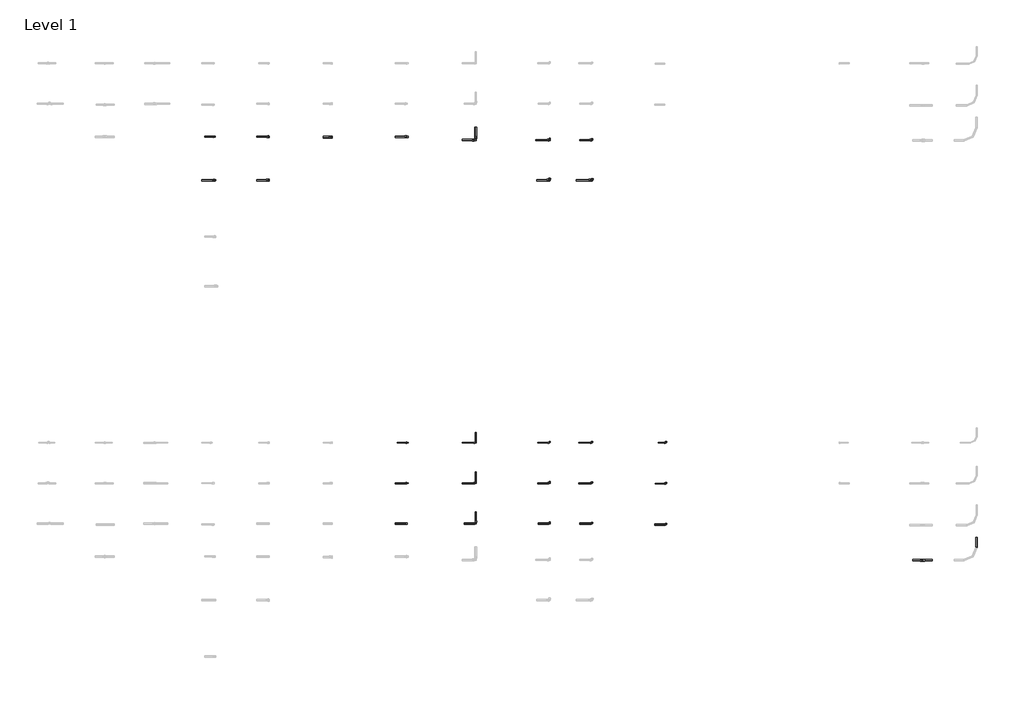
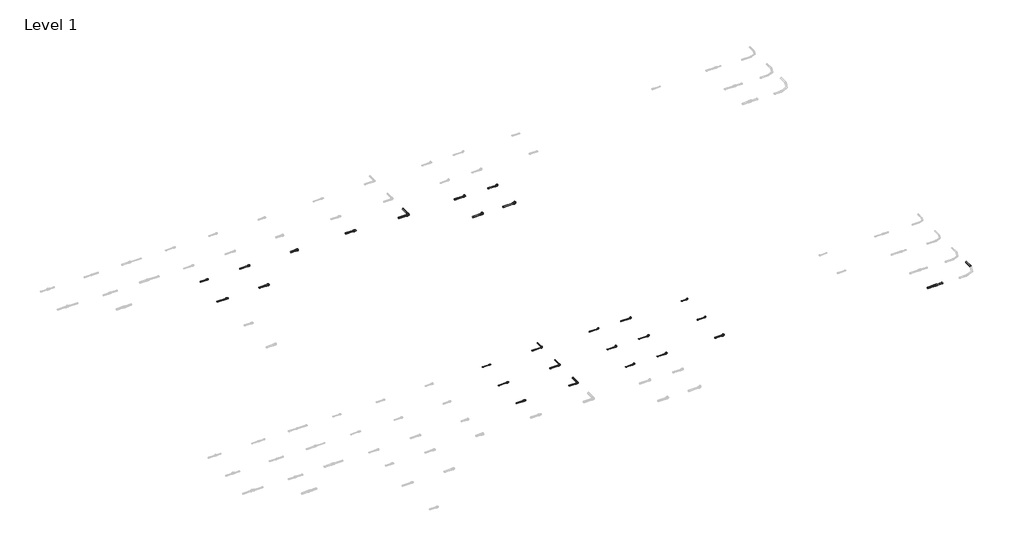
# One storey, part 9 of 16: 33 pipe segments, 28 pipe fittings.
"""IFC4 building model written with IfcOpenShell, lengths in millimetres."""

from ifc_helpers import new_model, si_unit, point, frame, frame_2d, origin, place, context, project, spatial, circle_curve, trimmed, segment, composite_curve, outline, extrude, transform, mapped, element, save
from components import pipe_fitting_554da5ac, pipe_fitting_11a16acd, pipe_fitting_9dc6dfba, pipe_fitting_2e9639ed, pipe_fitting_a8fbe6ac, pipe_fitting_d71fb650, pipe_fitting_546e3b0f, pipe_fitting_1a29b1f6, pipe_fitting_21c97d0d, pipe_fitting_4892b1d5, pipe_fitting_e188583c, pipe_fitting_fb4eec36, pipe_fitting_127ecf93, pipe_fitting_cd4c1f98, pipe_fitting_85239123, pipe_fitting_6c2c1df7, pipe_fitting_8eda894a, pipe_fitting_ad4eddfe, pipe_fitting_73c1a440, pipe_fitting_a2f8d1bd, pipe_fitting_43ece0d2, pipe_fitting_f574101e, pipe_fitting_ed7d2527, pipe_fitting_034b971a, pipe_fitting_1c80bece

model = new_model("IFC4")

# Units and contexts
model_context = context("Model", 3, world=origin())
ifc_project = project(units=[si_unit("LENGTHUNIT", "METRE", prefix="MILLI")], contexts=[model_context])

# Site, building, storey
site = spatial("IfcSite", under=ifc_project)
building = spatial("IfcBuilding", under=site)
storey = spatial("IfcBuildingStorey", under=building, Name="Level 1", Elevation=0.0)

# Pipe fittings
placement = place(None, origin())
pipe_fitting_shape = pipe_fitting_554da5ac(model_context)
element("IfcPipeFitting", 1, ObjectType="FASTLOC_Elbow with male thread EX+ : FSL A internal AT", at=placement, inside=storey, context=model_context, shape_type="MappedRepresentation", body=[
    mapped(pipe_fitting_shape, transform((44135.3824015, -7087.6479967, 0.0), x_axis=(1.0, 0.0, 0.0), y_axis=(0.0, 1.0, 0.0), z_axis=(0.0, 0.0, 1.0))),
])
pipe_fitting_2_shape = pipe_fitting_11a16acd(model_context)
element("IfcPipeFitting", 2, ObjectType="FASTLOC_Elbow with female thread EX+ : FSL A internal AT", at=placement, inside=storey, context=model_context, shape_type="MappedRepresentation", body=[
    mapped(pipe_fitting_2_shape, transform((44973.8113057, -6287.6479967, 0.0), x_axis=(1.0, 0.0, 0.0), y_axis=(0.0, 1.0, 0.0), z_axis=(0.0, 0.0, 1.0))),
])
element("IfcPipeFitting", 3, ObjectType="FASTLOC_Elbow with female thread EX+ : FSL A internal AT", at=placement, inside=storey, context=model_context, shape_type="MappedRepresentation", body=[
    mapped(pipe_fitting_2_shape, transform((46435.3824015, -6287.6479967, 0.0), x_axis=(1.0, 0.0, 0.0), y_axis=(0.0, 1.0, 0.0), z_axis=(0.0, 0.0, 1.0))),
])
element("IfcPipeFitting", 4, ObjectType="FASTLOC_Elbow with female thread EX+ : FSL A internal AT", at=placement, inside=storey, context=model_context, shape_type="MappedRepresentation", body=[
    mapped(pipe_fitting_2_shape, transform((46435.3824015, -7095.6479967, 0.0), x_axis=(1.0, 0.0, 0.0), y_axis=(0.0, 1.0, 0.0), z_axis=(0.0, 0.0, 1.0))),
])
pipe_fitting_3_shape = pipe_fitting_9dc6dfba(model_context)
element("IfcPipeFitting", 5, ObjectType="FASTLOC_Corner EX+ : FSL C EX+ AT", at=placement, inside=storey, context=model_context, shape_type="MappedRepresentation", body=[
    mapped(pipe_fitting_3_shape, transform((42675.3824015, -6287.6479967, 0.0), x_axis=(1.0, 0.0, 0.0), y_axis=(0.0, 1.0, 0.0), z_axis=(0.0, 0.0, 1.0))),
])
pipe_fitting_4_shape = pipe_fitting_2e9639ed(model_context)
element("IfcPipeFitting", 6, ObjectType="FASTLOC Copper press adapter RX+ : FSL RX+ AT", at=placement, inside=storey, context=model_context, shape_type="MappedRepresentation", body=[
    mapped(pipe_fitting_4_shape, transform((41315.3824015, -6287.6479967, 0.0), x_axis=(1.0, 0.0, 0.0), y_axis=(0.0, 1.0, 0.0), z_axis=(0.0, 0.0, 1.0))),
])
pipe_fitting_5_shape = pipe_fitting_a8fbe6ac(model_context)
element("IfcPipeFitting", 7, ObjectType="RAUTITAN_Sleeve PX : RTI S PX", at=placement, inside=storey, context=model_context, shape_type="MappedRepresentation", body=[
    mapped(pipe_fitting_5_shape, transform((51510.6241081, -8611.8142398, 13.7), x_axis=(1.0, 0.0, 0.0), y_axis=(0.0, 1.0, 0.0), z_axis=(0.0, 0.0, 1.0))),
])
pipe_fitting_6_shape = pipe_fitting_d71fb650(model_context)
element("IfcPipeFitting", 8, ObjectType="FASTLOC_Elbow with male thread EX+ : FSL A internal DE", at=placement, inside=storey, context=model_context, shape_type="MappedRepresentation", body=[
    mapped(pipe_fitting_6_shape, transform((44135.3824015, -304.9640428, 0.0), x_axis=(1.0, 0.0, 0.0), y_axis=(0.0, 1.0, 0.0), z_axis=(0.0, 0.0, 1.0))),
])
pipe_fitting_7_shape = pipe_fitting_546e3b0f(model_context)
element("IfcPipeFitting", 9, ObjectType="FASTLOC_Elbow with male thread EX+ : FSL A internal DE", at=placement, inside=storey, context=model_context, shape_type="MappedRepresentation", body=[
    mapped(pipe_fitting_7_shape, transform((44135.3824015, -1099.407392, 0.0), x_axis=(1.0, 0.0, 0.0), y_axis=(0.0, 1.0, 0.0), z_axis=(0.0, 0.0, 1.0))),
])
pipe_fitting_8_shape = pipe_fitting_1a29b1f6(model_context)
element("IfcPipeFitting", 10, ObjectType="FASTLOC_Elbow with male thread EX+ : FSL A internal AT", at=placement, inside=storey, context=model_context, shape_type="MappedRepresentation", body=[
    mapped(pipe_fitting_8_shape, transform((44135.3824015, -6287.6479967, 0.0), x_axis=(1.0, 0.0, 0.0), y_axis=(0.0, 1.0, 0.0), z_axis=(0.0, 0.0, 1.0))),
])
pipe_fitting_9_shape = pipe_fitting_21c97d0d(model_context)
element("IfcPipeFitting", 11, ObjectType="FASTLOC_Elbow with male thread EX+ : FSL A internal AT", at=placement, inside=storey, context=model_context, shape_type="MappedRepresentation", body=[
    mapped(pipe_fitting_9_shape, transform((44135.3824015, -7887.6479967, 0.0), x_axis=(1.0, 0.0, 0.0), y_axis=(0.0, 1.0, 0.0), z_axis=(0.0, 0.0, 1.0))),
])
pipe_fitting_10_shape = pipe_fitting_4892b1d5(model_context)
element("IfcPipeFitting", 12, ObjectType="FASTLOC_Adapter coupling EX+ : FSL TC EX+ AT", at=placement, inside=storey, context=model_context, shape_type="MappedRepresentation", body=[
    mapped(pipe_fitting_10_shape, transform((51491.3241081, -8611.8142398, 13.7), x_axis=(1.0, 0.0, 0.0), y_axis=(0.0, 1.0, 0.0), z_axis=(0.0, 0.0, 1.0))),
])
pipe_fitting_11_shape = pipe_fitting_e188583c(model_context)
element("IfcPipeFitting", 13, ObjectType="FASTLOC Copper press adapter RX+ : FSL RX+ DE", at=placement, inside=storey, context=model_context, shape_type="MappedRepresentation", body=[
    mapped(pipe_fitting_11_shape, transform((41315.3824015, -239.0537829, 0.0), x_axis=(1.0, 0.0, 0.0), y_axis=(0.0, 1.0, 0.0), z_axis=(0.0, 0.0, 1.0))),
])
pipe_fitting_12_shape = pipe_fitting_fb4eec36(model_context)
element("IfcPipeFitting", 14, ObjectType="FASTLOC Copper press adapter RX+ : FSL RX+ AT", at=placement, inside=storey, context=model_context, shape_type="MappedRepresentation", body=[
    mapped(pipe_fitting_12_shape, transform((41315.3824015, -7087.6479967, 0.0), x_axis=(1.0, 0.0, 0.0), y_axis=(0.0, 1.0, 0.0), z_axis=(0.0, 0.0, 1.0))),
])
pipe_fitting_13_shape = pipe_fitting_127ecf93(model_context)
element("IfcPipeFitting", 15, ObjectType="FASTLOC Copper press adapter RX+ : FSL RX+ AT", at=placement, inside=storey, context=model_context, shape_type="MappedRepresentation", body=[
    mapped(pipe_fitting_13_shape, transform((41295.3824015, -7887.6479967, 0.0), x_axis=(1.0, 0.0, 0.0), y_axis=(0.0, 1.0, 0.0), z_axis=(0.0, 0.0, 1.0))),
])
pipe_fitting_14_shape = pipe_fitting_cd4c1f98(model_context)
element("IfcPipeFitting", 16, ObjectType="FASTLOC_Adapter_EX+, with internal thread : FSL A internal DE", at=placement, inside=storey, context=model_context, shape_type="MappedRepresentation", body=[
    mapped(pipe_fitting_14_shape, transform((38579.5143796, -239.0537829, 0.0), x_axis=(1.0, 0.0, 0.0), y_axis=(0.0, 1.0, 0.0), z_axis=(0.0, 0.0, 1.0))),
])
pipe_fitting_15_shape = pipe_fitting_85239123(model_context)
element("IfcPipeFitting", 17, ObjectType="FASTLOC_Adapter_EX+, with internal thread : FSL A internal DE", at=placement, inside=storey, context=model_context, shape_type="MappedRepresentation", body=[
    mapped(pipe_fitting_15_shape, transform((38579.5143796, -1099.407392, 0.0), x_axis=(1.0, 0.0, 0.0), y_axis=(0.0, 1.0, 0.0), z_axis=(0.0, 0.0, 1.0))),
])
pipe_fitting_16_shape = pipe_fitting_6c2c1df7(model_context)
element("IfcPipeFitting", 18, ObjectType="FASTLOC_Elbow with female thread EX+ : FSL A internal DE", at=placement, inside=storey, context=model_context, shape_type="MappedRepresentation", body=[
    mapped(pipe_fitting_16_shape, transform((44973.8113057, -304.9640428, 0.0), x_axis=(1.0, 0.0, 0.0), y_axis=(0.0, 1.0, 0.0), z_axis=(0.0, 0.0, 1.0))),
])
pipe_fitting_17_shape = pipe_fitting_8eda894a(model_context)
element("IfcPipeFitting", 19, ObjectType="FASTLOC_Elbow with female thread EX+ : FSL A internal DE", at=placement, inside=storey, context=model_context, shape_type="MappedRepresentation", body=[
    mapped(pipe_fitting_17_shape, transform((44973.8113057, -1099.407392, 0.0), x_axis=(1.0, 0.0, 0.0), y_axis=(0.0, 1.0, 0.0), z_axis=(0.0, 0.0, 1.0))),
])
pipe_fitting_18_shape = pipe_fitting_ad4eddfe(model_context)
element("IfcPipeFitting", 20, ObjectType="FASTLOC_Elbow with female thread EX+ : FSL A internal AT", at=placement, inside=storey, context=model_context, shape_type="MappedRepresentation", body=[
    mapped(pipe_fitting_18_shape, transform((44973.8113057, -7087.6479967, 0.0), x_axis=(1.0, 0.0, 0.0), y_axis=(0.0, 1.0, 0.0), z_axis=(0.0, 0.0, 1.0))),
])
pipe_fitting_19_shape = pipe_fitting_73c1a440(model_context)
element("IfcPipeFitting", 21, ObjectType="FASTLOC_Elbow with female thread EX+ : FSL A internal AT", at=placement, inside=storey, context=model_context, shape_type="MappedRepresentation", body=[
    mapped(pipe_fitting_19_shape, transform((44973.8113057, -7887.6479967, 0.0), x_axis=(1.0, 0.0, 0.0), y_axis=(0.0, 1.0, 0.0), z_axis=(0.0, 0.0, 1.0))),
])
element("IfcPipeFitting", 22, ObjectType="FASTLOC_Elbow with female thread EX+ : FSL A internal AT", at=placement, inside=storey, context=model_context, shape_type="MappedRepresentation", body=[
    mapped(pipe_fitting_16_shape, transform((46435.3824015, -7906.354246, 0.0), x_axis=(1.0, 0.0, 0.0), y_axis=(0.0, 1.0, 0.0), z_axis=(0.0, 0.0, 1.0))),
])
pipe_fitting_20_shape = pipe_fitting_a2f8d1bd(model_context)
element("IfcPipeFitting", 23, ObjectType="FASTLOC_Corner EX+ : FSL C EX+ DE", at=placement, inside=storey, context=model_context, shape_type="MappedRepresentation", body=[
    mapped(pipe_fitting_20_shape, transform((42675.3824015, -304.9640428, 0.0), x_axis=(1.0, 0.0, 0.0), y_axis=(0.0, 1.0, 0.0), z_axis=(0.0, 0.0, 1.0))),
])
pipe_fitting_21_shape = pipe_fitting_43ece0d2(model_context)
element("IfcPipeFitting", 24, ObjectType="FASTLOC_Corner EX+ : FSL C EX+ AT", at=placement, inside=storey, context=model_context, shape_type="MappedRepresentation", body=[
    mapped(pipe_fitting_21_shape, transform((42675.3824015, -7087.6479967, 0.0), x_axis=(1.0, 0.0, 0.0), y_axis=(0.0, 1.0, 0.0), z_axis=(0.0, 0.0, 1.0))),
])
pipe_fitting_22_shape = pipe_fitting_f574101e(model_context)
element("IfcPipeFitting", 25, ObjectType="FASTLOC_Corner EX+ : FSL C EX+ AT", at=placement, inside=storey, context=model_context, shape_type="MappedRepresentation", body=[
    mapped(pipe_fitting_22_shape, transform((42675.3824015, -7887.6479967, 0.0), x_axis=(1.0, 0.0, 0.0), y_axis=(0.0, 1.0, 0.0), z_axis=(0.0, 0.0, 1.0))),
])
pipe_fitting_23_shape = pipe_fitting_ed7d2527(model_context)
element("IfcPipeFitting", 26, ObjectType="FASTLOC_Adapter_RX+, with external thread : FSL A C external EX+ DE", at=placement, inside=storey, context=model_context, shape_type="MappedRepresentation", body=[
    mapped(pipe_fitting_23_shape, transform((37498.2332092, -239.0537829, 0.0), x_axis=(1.0, 0.0, 0.0), y_axis=(0.0, 1.0, 0.0), z_axis=(0.0, 0.0, 1.0))),
])
pipe_fitting_24_shape = pipe_fitting_034b971a(model_context)
element("IfcPipeFitting", 27, ObjectType="FASTLOC_Adapter_RX+, with external thread : FSL A C external EX+ DE", at=placement, inside=storey, context=model_context, shape_type="MappedRepresentation", body=[
    mapped(pipe_fitting_24_shape, transform((37510.8952889, -1099.407392, 0.0), x_axis=(1.0, 0.0, 0.0), y_axis=(0.0, 1.0, 0.0), z_axis=(0.0, 0.0, 1.0))),
])
pipe_fitting_25_shape = pipe_fitting_1c80bece(model_context)
element("IfcPipeFitting", 28, ObjectType="FASTLOC_Adapter with union nut EX+ : FSL A union nut EX+ DE", at=placement, inside=storey, context=model_context, shape_type="MappedRepresentation", body=[
    mapped(pipe_fitting_25_shape, transform((39818.3503777, -247.0537829, 0.0), x_axis=(1.0, 0.0, 0.0), y_axis=(0.0, 1.0, 0.0), z_axis=(0.0, 0.0, 1.0))),
])

# Pipe segments
element("IfcPipeSegment", 29, ObjectType="FASTLOC EX+ ML DE coil", at=placement, inside=storey, context=model_context, shape_type="SweptSolid", body=[
    extrude(outline(composite_curve([segment(trimmed(circle_curve(frame_2d((-304.9640428, 0.0)), 12.5), [point((-292.4640428, 0.0))], [point((-304.9640428, -12.5))], False, "CARTESIAN"), True, "CONTINUOUS"), segment(trimmed(circle_curve(frame_2d((-304.9640428, 0.0)), 12.5), [point((-304.9640428, -12.5))], [point((-317.4640428, 0.0))], False, "CARTESIAN"), True, "CONTINUOUS"), segment(trimmed(circle_curve(frame_2d((-304.9640428, 0.0)), 12.5), [point((-317.4640428, 0.0))], [point((-304.9640428, 12.5))], False, "CARTESIAN"), True, "CONTINUOUS"), segment(trimmed(circle_curve(frame_2d((-304.9640428, 0.0)), 12.5), [point((-304.9640428, 12.5))], [point((-292.4640428, 0.0))], False, "CARTESIAN"), True, "CONTINUOUS")], self_intersect=False)), frame((44726.8113057, 0.0, 0.0), z_axis=(1.0, 0.0, 0.0), x_axis=(0.0, 1.0, 0.0)), (0.0, 0.0, 1.0), 220.0),
])
element("IfcPipeSegment", 30, ObjectType="FASTLOC EX+ ML DE coil", at=placement, inside=storey, context=model_context, shape_type="SweptSolid", body=[
    extrude(outline(composite_curve([segment(trimmed(circle_curve(frame_2d((-304.9640428, 0.0)), 12.5), [point((-292.4640428, 0.0))], [point((-304.9640428, -12.5))], False, "CARTESIAN"), True, "CONTINUOUS"), segment(trimmed(circle_curve(frame_2d((-304.9640428, 0.0)), 12.5), [point((-304.9640428, -12.5))], [point((-317.4640428, 0.0))], False, "CARTESIAN"), True, "CONTINUOUS"), segment(trimmed(circle_curve(frame_2d((-304.9640428, 0.0)), 12.5), [point((-317.4640428, 0.0))], [point((-304.9640428, 12.5))], False, "CARTESIAN"), True, "CONTINUOUS"), segment(trimmed(circle_curve(frame_2d((-304.9640428, 0.0)), 12.5), [point((-304.9640428, 12.5))], [point((-292.4640428, 0.0))], False, "CARTESIAN"), True, "CONTINUOUS")], self_intersect=False)), frame((43861.1824015, 0.0, 0.0), z_axis=(1.0, 0.0, 0.0), x_axis=(0.0, 1.0, 0.0)), (0.0, 0.0, 1.0), 250.0),
])
element("IfcPipeSegment", 31, ObjectType="FASTLOC EX+ ML DE coil", at=placement, inside=storey, context=model_context, shape_type="SweptSolid", body=[
    extrude(outline(composite_curve([segment(trimmed(circle_curve(frame_2d((-1099.407392, 0.0)), 16.0), [point((-1083.407392, 0.0))], [point((-1099.407392, -16.0))], False, "CARTESIAN"), True, "CONTINUOUS"), segment(trimmed(circle_curve(frame_2d((-1099.407392, 0.0)), 16.0), [point((-1099.407392, -16.0))], [point((-1115.407392, 0.0))], False, "CARTESIAN"), True, "CONTINUOUS"), segment(trimmed(circle_curve(frame_2d((-1099.407392, 0.0)), 16.0), [point((-1115.407392, 0.0))], [point((-1099.407392, 16.0))], False, "CARTESIAN"), True, "CONTINUOUS"), segment(trimmed(circle_curve(frame_2d((-1099.407392, 0.0)), 16.0), [point((-1099.407392, 16.0))], [point((-1083.407392, 0.0))], False, "CARTESIAN"), True, "CONTINUOUS")], self_intersect=False)), frame((43875.6824015, 0.0, 0.0), z_axis=(1.0, 0.0, 0.0), x_axis=(0.0, 1.0, 0.0)), (0.0, 0.0, 1.0), 230.0),
])
element("IfcPipeSegment", 32, ObjectType="FASTLOC EX+ ML DE coil", at=placement, inside=storey, context=model_context, shape_type="SweptSolid", body=[
    extrude(outline(composite_curve([segment(trimmed(circle_curve(frame_2d((-1099.407392, 0.0)), 16.0), [point((-1083.407392, 0.0))], [point((-1099.407392, -16.0))], False, "CARTESIAN"), True, "CONTINUOUS"), segment(trimmed(circle_curve(frame_2d((-1099.407392, 0.0)), 16.0), [point((-1099.407392, -16.0))], [point((-1115.407392, 0.0))], False, "CARTESIAN"), True, "CONTINUOUS"), segment(trimmed(circle_curve(frame_2d((-1099.407392, 0.0)), 16.0), [point((-1115.407392, 0.0))], [point((-1099.407392, 16.0))], False, "CARTESIAN"), True, "CONTINUOUS"), segment(trimmed(circle_curve(frame_2d((-1099.407392, 0.0)), 16.0), [point((-1099.407392, 16.0))], [point((-1083.407392, 0.0))], False, "CARTESIAN"), True, "CONTINUOUS")], self_intersect=False)), frame((44661.8113057, 0.0, 0.0), z_axis=(1.0, 0.0, 0.0), x_axis=(0.0, 1.0, 0.0)), (0.0, 0.0, 1.0), 280.0),
])
element("IfcPipeSegment", 33, ObjectType="FASTLOC EX+ ML DE coil", at=placement, inside=storey, context=model_context, shape_type="SweptSolid", body=[
    extrude(outline(composite_curve([segment(trimmed(circle_curve(frame_2d((0.0, 42675.3824015)), 16.0), [point((0.0, 42691.3824015))], [point((16.0, 42675.3824015))], False, "CARTESIAN"), True, "CONTINUOUS"), segment(trimmed(circle_curve(frame_2d((0.0, 42675.3824015)), 16.0), [point((16.0, 42675.3824015))], [point((0.0, 42659.3824015))], False, "CARTESIAN"), True, "CONTINUOUS"), segment(trimmed(circle_curve(frame_2d((0.0, 42675.3824015)), 16.0), [point((0.0, 42659.3824015))], [point((-16.0, 42675.3824015))], False, "CARTESIAN"), True, "CONTINUOUS"), segment(trimmed(circle_curve(frame_2d((0.0, 42675.3824015)), 16.0), [point((-16.0, 42675.3824015))], [point((0.0, 42691.3824015))], False, "CARTESIAN"), True, "CONTINUOUS")], self_intersect=False)), frame((0.0, -269.9640428, 0.0), z_axis=(0.0, 1.0, 0.0), x_axis=(0.0, 0.0, 1.0)), (0.0, 0.0, 1.0), 220.0),
])
element("IfcPipeSegment", 34, ObjectType="FASTLOC EX+ ML DE coil", at=placement, inside=storey, context=model_context, shape_type="SweptSolid", body=[
    extrude(outline(composite_curve([segment(trimmed(circle_curve(frame_2d((-304.9640428, 0.0)), 16.0), [point((-288.9640428, 0.0))], [point((-304.9640428, -16.0))], False, "CARTESIAN"), True, "CONTINUOUS"), segment(trimmed(circle_curve(frame_2d((-304.9640428, 0.0)), 16.0), [point((-304.9640428, -16.0))], [point((-320.9640428, 0.0))], False, "CARTESIAN"), True, "CONTINUOUS"), segment(trimmed(circle_curve(frame_2d((-304.9640428, 0.0)), 16.0), [point((-320.9640428, 0.0))], [point((-304.9640428, 16.0))], False, "CARTESIAN"), True, "CONTINUOUS"), segment(trimmed(circle_curve(frame_2d((-304.9640428, 0.0)), 16.0), [point((-304.9640428, 16.0))], [point((-288.9640428, 0.0))], False, "CARTESIAN"), True, "CONTINUOUS")], self_intersect=False)), frame((42413.2824015, 0.0, 0.0), z_axis=(1.0, 0.0, 0.0), x_axis=(0.0, 1.0, 0.0)), (0.0, 0.0, 1.0), 227.1),
])
element("IfcPipeSegment", 35, ObjectType="FASTLOC EX+ ML DE coil", at=placement, inside=storey, context=model_context, shape_type="SweptSolid", body=[
    extrude(outline(composite_curve([segment(trimmed(circle_curve(frame_2d((-239.0537829, 0.0)), 16.0), [point((-223.0537829, 0.0))], [point((-239.0537829, -16.0))], False, "CARTESIAN"), True, "CONTINUOUS"), segment(trimmed(circle_curve(frame_2d((-239.0537829, 0.0)), 16.0), [point((-239.0537829, -16.0))], [point((-255.0537829, 0.0))], False, "CARTESIAN"), True, "CONTINUOUS"), segment(trimmed(circle_curve(frame_2d((-239.0537829, 0.0)), 16.0), [point((-255.0537829, 0.0))], [point((-239.0537829, 16.0))], False, "CARTESIAN"), True, "CONTINUOUS"), segment(trimmed(circle_curve(frame_2d((-239.0537829, 0.0)), 16.0), [point((-239.0537829, 16.0))], [point((-223.0537829, 0.0))], False, "CARTESIAN"), True, "CONTINUOUS")], self_intersect=False)), frame((41082.2824015, 0.0, 0.0), z_axis=(1.0, 0.0, 0.0), x_axis=(0.0, 1.0, 0.0)), (0.0, 0.0, 1.0), 220.0),
])
element("IfcPipeSegment", 36, ObjectType="FASTLOC EX+ ML DE coil", at=placement, inside=storey, context=model_context, shape_type="SweptSolid", body=[
    extrude(outline(composite_curve([segment(trimmed(circle_curve(frame_2d((-247.0537829, 0.0)), 16.0), [point((-231.0537829, 0.0))], [point((-247.0537829, -16.0))], False, "CARTESIAN"), True, "CONTINUOUS"), segment(trimmed(circle_curve(frame_2d((-247.0537829, 0.0)), 16.0), [point((-247.0537829, -16.0))], [point((-263.0537829, 0.0))], False, "CARTESIAN"), True, "CONTINUOUS"), segment(trimmed(circle_curve(frame_2d((-247.0537829, 0.0)), 16.0), [point((-263.0537829, 0.0))], [point((-247.0537829, 16.0))], False, "CARTESIAN"), True, "CONTINUOUS"), segment(trimmed(circle_curve(frame_2d((-247.0537829, 0.0)), 16.0), [point((-247.0537829, 16.0))], [point((-231.0537829, 0.0))], False, "CARTESIAN"), True, "CONTINUOUS")], self_intersect=False)), frame((39659.3503777, 0.0, 0.0), z_axis=(1.0, 0.0, 0.0), x_axis=(0.0, 1.0, 0.0)), (0.0, 0.0, 1.0), 147.5),
])
element("IfcPipeSegment", 37, ObjectType="FASTLOC EX+ ML DE coil", at=placement, inside=storey, context=model_context, shape_type="SweptSolid", body=[
    extrude(outline(composite_curve([segment(trimmed(circle_curve(frame_2d((-239.0537829, 0.0)), 12.5), [point((-226.5537829, 0.0))], [point((-239.0537829, -12.5))], False, "CARTESIAN"), True, "CONTINUOUS"), segment(trimmed(circle_curve(frame_2d((-239.0537829, 0.0)), 12.5), [point((-239.0537829, -12.5))], [point((-251.5537829, 0.0))], False, "CARTESIAN"), True, "CONTINUOUS"), segment(trimmed(circle_curve(frame_2d((-239.0537829, 0.0)), 12.5), [point((-251.5537829, 0.0))], [point((-239.0537829, 12.5))], False, "CARTESIAN"), True, "CONTINUOUS"), segment(trimmed(circle_curve(frame_2d((-239.0537829, 0.0)), 12.5), [point((-239.0537829, 12.5))], [point((-226.5537829, 0.0))], False, "CARTESIAN"), True, "CONTINUOUS")], self_intersect=False)), frame((38346.6143796, 0.0, 0.0), z_axis=(1.0, 0.0, 0.0), x_axis=(0.0, 1.0, 0.0)), (0.0, 0.0, 1.0), 220.0),
])
element("IfcPipeSegment", 38, ObjectType="FASTLOC EX+ ML DE coil", at=placement, inside=storey, context=model_context, shape_type="SweptSolid", body=[
    extrude(outline(composite_curve([segment(trimmed(circle_curve(frame_2d((-1099.407392, 0.0)), 16.0), [point((-1083.407392, 0.0))], [point((-1099.407392, -16.0))], False, "CARTESIAN"), True, "CONTINUOUS"), segment(trimmed(circle_curve(frame_2d((-1099.407392, 0.0)), 16.0), [point((-1099.407392, -16.0))], [point((-1115.407392, 0.0))], False, "CARTESIAN"), True, "CONTINUOUS"), segment(trimmed(circle_curve(frame_2d((-1099.407392, 0.0)), 16.0), [point((-1115.407392, 0.0))], [point((-1099.407392, 16.0))], False, "CARTESIAN"), True, "CONTINUOUS"), segment(trimmed(circle_curve(frame_2d((-1099.407392, 0.0)), 16.0), [point((-1099.407392, 16.0))], [point((-1083.407392, 0.0))], False, "CARTESIAN"), True, "CONTINUOUS")], self_intersect=False)), frame((38346.6143796, 0.0, 0.0), z_axis=(1.0, 0.0, 0.0), x_axis=(0.0, 1.0, 0.0)), (0.0, 0.0, 1.0), 218.4),
])
element("IfcPipeSegment", 39, ObjectType="FASTLOC EX+ ML DE coil", at=placement, inside=storey, context=model_context, shape_type="SweptSolid", body=[
    extrude(outline(composite_curve([segment(trimmed(circle_curve(frame_2d((-1099.407392, 0.0)), 12.5), [point((-1086.907392, 0.0))], [point((-1099.407392, -12.5))], False, "CARTESIAN"), True, "CONTINUOUS"), segment(trimmed(circle_curve(frame_2d((-1099.407392, 0.0)), 12.5), [point((-1099.407392, -12.5))], [point((-1111.907392, 0.0))], False, "CARTESIAN"), True, "CONTINUOUS"), segment(trimmed(circle_curve(frame_2d((-1099.407392, 0.0)), 12.5), [point((-1111.907392, 0.0))], [point((-1099.407392, 12.5))], False, "CARTESIAN"), True, "CONTINUOUS"), segment(trimmed(circle_curve(frame_2d((-1099.407392, 0.0)), 12.5), [point((-1099.407392, 12.5))], [point((-1086.907392, 0.0))], False, "CARTESIAN"), True, "CONTINUOUS")], self_intersect=False)), frame((37261.4952889, 0.0, 0.0), z_axis=(1.0, 0.0, 0.0), x_axis=(0.0, 1.0, 0.0)), (0.0, 0.0, 1.0), 240.0),
])
element("IfcPipeSegment", 40, ObjectType="FASTLOC EX+ ML DE coil", at=placement, inside=storey, context=model_context, shape_type="SweptSolid", body=[
    extrude(outline(composite_curve([segment(trimmed(circle_curve(frame_2d((-239.0537829, 0.0)), 10.0), [point((-229.0537829, 0.0))], [point((-239.0537829, -10.0))], False, "CARTESIAN"), True, "CONTINUOUS"), segment(trimmed(circle_curve(frame_2d((-239.0537829, 0.0)), 10.0), [point((-239.0537829, -10.0))], [point((-249.0537829, 0.0))], False, "CARTESIAN"), True, "CONTINUOUS"), segment(trimmed(circle_curve(frame_2d((-239.0537829, 0.0)), 10.0), [point((-249.0537829, 0.0))], [point((-239.0537829, 10.0))], False, "CARTESIAN"), True, "CONTINUOUS"), segment(trimmed(circle_curve(frame_2d((-239.0537829, 0.0)), 10.0), [point((-239.0537829, 10.0))], [point((-229.0537829, 0.0))], False, "CARTESIAN"), True, "CONTINUOUS")], self_intersect=False)), frame((37326.5601208, 0.0, 0.0), z_axis=(1.0, 0.0, 0.0), x_axis=(0.0, 1.0, 0.0)), (0.0, 0.0, 1.0), 162.3730883),
])
element("IfcPipeSegment", 41, ObjectType="FASTLOC EX+ ML AT coil", at=placement, inside=storey, context=model_context, shape_type="SweptSolid", body=[
    extrude(outline(composite_curve([segment(trimmed(circle_curve(frame_2d((0.0, 52570.2040344)), 16.0), [point((0.0, 52586.2040344))], [point((16.0, 52570.2040344))], False, "CARTESIAN"), True, "CONTINUOUS"), segment(trimmed(circle_curve(frame_2d((0.0, 52570.2040344)), 16.0), [point((16.0, 52570.2040344))], [point((0.0, 52554.2040344))], False, "CARTESIAN"), True, "CONTINUOUS"), segment(trimmed(circle_curve(frame_2d((0.0, 52570.2040344)), 16.0), [point((0.0, 52554.2040344))], [point((-16.0, 52570.2040344))], False, "CARTESIAN"), True, "CONTINUOUS"), segment(trimmed(circle_curve(frame_2d((0.0, 52570.2040344)), 16.0), [point((-16.0, 52570.2040344))], [point((0.0, 52586.2040344))], False, "CARTESIAN"), True, "CONTINUOUS")], self_intersect=False)), frame((0.0, -8355.8142398, 0.0), z_axis=(0.0, 1.0, 0.0), x_axis=(0.0, 0.0, 1.0)), (0.0, 0.0, 1.0), 200.0),
])
element("IfcPipeSegment", 42, ObjectType="FASTLOC EX+ ML AT coil", at=placement, inside=storey, context=model_context, shape_type="SweptSolid", body=[
    extrude(outline(composite_curve([segment(trimmed(circle_curve(frame_2d((-8611.8142398, 13.7)), 16.0), [point((-8627.8142398, 13.7))], [point((-8611.8142398, 29.7))], False, "CARTESIAN"), True, "CONTINUOUS"), segment(trimmed(circle_curve(frame_2d((-8611.8142398, 13.7)), 16.0), [point((-8611.8142398, 29.7))], [point((-8595.8142398, 13.7))], False, "CARTESIAN"), True, "CONTINUOUS"), segment(trimmed(circle_curve(frame_2d((-8611.8142398, 13.7)), 16.0), [point((-8595.8142398, 13.7))], [point((-8611.8142398, -2.3))], False, "CARTESIAN"), True, "CONTINUOUS"), segment(trimmed(circle_curve(frame_2d((-8611.8142398, 13.7)), 16.0), [point((-8611.8142398, -2.3))], [point((-8627.8142398, 13.7))], False, "CARTESIAN"), True, "CONTINUOUS")], self_intersect=False)), frame((51510.6241081, 0.0, 0.0), z_axis=(1.0, 0.0, 0.0), x_axis=(0.0, 1.0, 0.0)), (0.0, 0.0, 1.0), 180.0),
])
element("IfcPipeSegment", 43, ObjectType="FASTLOC EX+ ML AT coil", at=placement, inside=storey, context=model_context, shape_type="SweptSolid", body=[
    extrude(outline(composite_curve([segment(trimmed(circle_curve(frame_2d((-8611.8142398, 13.7)), 16.0), [point((-8595.8142398, 13.7))], [point((-8611.8142398, -2.3))], False, "CARTESIAN"), True, "CONTINUOUS"), segment(trimmed(circle_curve(frame_2d((-8611.8142398, 13.7)), 16.0), [point((-8611.8142398, -2.3))], [point((-8627.8142398, 13.7))], False, "CARTESIAN"), True, "CONTINUOUS"), segment(trimmed(circle_curve(frame_2d((-8611.8142398, 13.7)), 16.0), [point((-8627.8142398, 13.7))], [point((-8611.8142398, 29.7))], False, "CARTESIAN"), True, "CONTINUOUS"), segment(trimmed(circle_curve(frame_2d((-8611.8142398, 13.7)), 16.0), [point((-8611.8142398, 29.7))], [point((-8595.8142398, 13.7))], False, "CARTESIAN"), True, "CONTINUOUS")], self_intersect=False)), frame((51305.8241081, 0.0, 0.0), z_axis=(1.0, 0.0, 0.0), x_axis=(0.0, 1.0, 0.0)), (0.0, 0.0, 1.0), 180.0),
])
element("IfcPipeSegment", 44, ObjectType="FASTLOC EX+ ML AT coil", at=placement, inside=storey, context=model_context, shape_type="SweptSolid", body=[
    extrude(outline(composite_curve([segment(trimmed(circle_curve(frame_2d((-6287.6479967, 0.0)), 8.0), [point((-6279.6479967, 0.0))], [point((-6287.6479967, -8.0))], False, "CARTESIAN"), True, "CONTINUOUS"), segment(trimmed(circle_curve(frame_2d((-6287.6479967, 0.0)), 8.0), [point((-6287.6479967, -8.0))], [point((-6295.6479967, 0.0))], False, "CARTESIAN"), True, "CONTINUOUS"), segment(trimmed(circle_curve(frame_2d((-6287.6479967, 0.0)), 8.0), [point((-6295.6479967, 0.0))], [point((-6287.6479967, 8.0))], False, "CARTESIAN"), True, "CONTINUOUS"), segment(trimmed(circle_curve(frame_2d((-6287.6479967, 0.0)), 8.0), [point((-6287.6479967, 8.0))], [point((-6279.6479967, 0.0))], False, "CARTESIAN"), True, "CONTINUOUS")], self_intersect=False)), frame((46282.8824015, 0.0, 0.0), z_axis=(1.0, 0.0, 0.0), x_axis=(0.0, 1.0, 0.0)), (0.0, 0.0, 1.0), 130.2),
])
element("IfcPipeSegment", 45, ObjectType="FASTLOC EX+ ML AT coil", at=placement, inside=storey, context=model_context, shape_type="SweptSolid", body=[
    extrude(outline(composite_curve([segment(trimmed(circle_curve(frame_2d((-7095.6479967, 0.0)), 8.0), [point((-7087.6479967, 0.0))], [point((-7095.6479967, -8.0))], False, "CARTESIAN"), True, "CONTINUOUS"), segment(trimmed(circle_curve(frame_2d((-7095.6479967, 0.0)), 8.0), [point((-7095.6479967, -8.0))], [point((-7103.6479967, 0.0))], False, "CARTESIAN"), True, "CONTINUOUS"), segment(trimmed(circle_curve(frame_2d((-7095.6479967, 0.0)), 8.0), [point((-7103.6479967, 0.0))], [point((-7095.6479967, 8.0))], False, "CARTESIAN"), True, "CONTINUOUS"), segment(trimmed(circle_curve(frame_2d((-7095.6479967, 0.0)), 8.0), [point((-7095.6479967, 8.0))], [point((-7087.6479967, 0.0))], False, "CARTESIAN"), True, "CONTINUOUS")], self_intersect=False)), frame((46222.8824015, 0.0, 0.0), z_axis=(1.0, 0.0, 0.0), x_axis=(0.0, 1.0, 0.0)), (0.0, 0.0, 1.0), 190.2),
])
element("IfcPipeSegment", 46, ObjectType="FASTLOC EX+ ML AT coil", at=placement, inside=storey, context=model_context, shape_type="SweptSolid", body=[
    extrude(outline(composite_curve([segment(trimmed(circle_curve(frame_2d((-7906.354246, 0.0)), 12.5), [point((-7893.854246, 0.0))], [point((-7906.354246, -12.5))], False, "CARTESIAN"), True, "CONTINUOUS"), segment(trimmed(circle_curve(frame_2d((-7906.354246, 0.0)), 12.5), [point((-7906.354246, -12.5))], [point((-7918.854246, 0.0))], False, "CARTESIAN"), True, "CONTINUOUS"), segment(trimmed(circle_curve(frame_2d((-7906.354246, 0.0)), 12.5), [point((-7918.854246, 0.0))], [point((-7906.354246, 12.5))], False, "CARTESIAN"), True, "CONTINUOUS"), segment(trimmed(circle_curve(frame_2d((-7906.354246, 0.0)), 12.5), [point((-7906.354246, 12.5))], [point((-7893.854246, 0.0))], False, "CARTESIAN"), True, "CONTINUOUS")], self_intersect=False)), frame((46208.4824015, 0.0, 0.0), z_axis=(1.0, 0.0, 0.0), x_axis=(0.0, 1.0, 0.0)), (0.0, 0.0, 1.0), 199.9),
])
element("IfcPipeSegment", 47, ObjectType="FASTLOC EX+ ML AT coil", at=placement, inside=storey, context=model_context, shape_type="SweptSolid", body=[
    extrude(outline(composite_curve([segment(trimmed(circle_curve(frame_2d((-7887.6479967, 0.0)), 10.0), [point((-7877.6479967, 0.0))], [point((-7887.6479967, -10.0))], False, "CARTESIAN"), True, "CONTINUOUS"), segment(trimmed(circle_curve(frame_2d((-7887.6479967, 0.0)), 10.0), [point((-7887.6479967, -10.0))], [point((-7897.6479967, 0.0))], False, "CARTESIAN"), True, "CONTINUOUS"), segment(trimmed(circle_curve(frame_2d((-7887.6479967, 0.0)), 10.0), [point((-7897.6479967, 0.0))], [point((-7887.6479967, 10.0))], False, "CARTESIAN"), True, "CONTINUOUS"), segment(trimmed(circle_curve(frame_2d((-7887.6479967, 0.0)), 10.0), [point((-7887.6479967, 10.0))], [point((-7877.6479967, 0.0))], False, "CARTESIAN"), True, "CONTINUOUS")], self_intersect=False)), frame((44726.8113057, 0.0, 0.0), z_axis=(1.0, 0.0, 0.0), x_axis=(0.0, 1.0, 0.0)), (0.0, 0.0, 1.0), 221.0),
])
element("IfcPipeSegment", 48, ObjectType="FASTLOC EX+ ML AT coil", at=placement, inside=storey, context=model_context, shape_type="SweptSolid", body=[
    extrude(outline(composite_curve([segment(trimmed(circle_curve(frame_2d((-7087.6479967, 0.0)), 10.0), [point((-7077.6479967, 0.0))], [point((-7087.6479967, -10.0))], False, "CARTESIAN"), True, "CONTINUOUS"), segment(trimmed(circle_curve(frame_2d((-7087.6479967, 0.0)), 10.0), [point((-7087.6479967, -10.0))], [point((-7097.6479967, 0.0))], False, "CARTESIAN"), True, "CONTINUOUS"), segment(trimmed(circle_curve(frame_2d((-7087.6479967, 0.0)), 10.0), [point((-7097.6479967, 0.0))], [point((-7087.6479967, 10.0))], False, "CARTESIAN"), True, "CONTINUOUS"), segment(trimmed(circle_curve(frame_2d((-7087.6479967, 0.0)), 10.0), [point((-7087.6479967, 10.0))], [point((-7077.6479967, 0.0))], False, "CARTESIAN"), True, "CONTINUOUS")], self_intersect=False)), frame((44711.1113057, 0.0, 0.0), z_axis=(1.0, 0.0, 0.0), x_axis=(0.0, 1.0, 0.0)), (0.0, 0.0, 1.0), 240.0),
])
element("IfcPipeSegment", 49, ObjectType="FASTLOC EX+ ML AT coil", at=placement, inside=storey, context=model_context, shape_type="SweptSolid", body=[
    extrude(outline(composite_curve([segment(trimmed(circle_curve(frame_2d((-6287.6479967, 0.0)), 8.0), [point((-6279.6479967, 0.0))], [point((-6287.6479967, -8.0))], False, "CARTESIAN"), True, "CONTINUOUS"), segment(trimmed(circle_curve(frame_2d((-6287.6479967, 0.0)), 8.0), [point((-6287.6479967, -8.0))], [point((-6295.6479967, 0.0))], False, "CARTESIAN"), True, "CONTINUOUS"), segment(trimmed(circle_curve(frame_2d((-6287.6479967, 0.0)), 8.0), [point((-6295.6479967, 0.0))], [point((-6287.6479967, 8.0))], False, "CARTESIAN"), True, "CONTINUOUS"), segment(trimmed(circle_curve(frame_2d((-6287.6479967, 0.0)), 8.0), [point((-6287.6479967, 8.0))], [point((-6279.6479967, 0.0))], False, "CARTESIAN"), True, "CONTINUOUS")], self_intersect=False)), frame((44711.1113057, 0.0, 0.0), z_axis=(1.0, 0.0, 0.0), x_axis=(0.0, 1.0, 0.0)), (0.0, 0.0, 1.0), 240.4),
])
element("IfcPipeSegment", 50, ObjectType="FASTLOC EX+ ML AT coil", at=placement, inside=storey, context=model_context, shape_type="SweptSolid", body=[
    extrude(outline(composite_curve([segment(trimmed(circle_curve(frame_2d((-6287.6479967, 0.0)), 8.0), [point((-6279.6479967, 0.0))], [point((-6287.6479967, -8.0))], False, "CARTESIAN"), True, "CONTINUOUS"), segment(trimmed(circle_curve(frame_2d((-6287.6479967, 0.0)), 8.0), [point((-6287.6479967, -8.0))], [point((-6295.6479967, 0.0))], False, "CARTESIAN"), True, "CONTINUOUS"), segment(trimmed(circle_curve(frame_2d((-6287.6479967, 0.0)), 8.0), [point((-6295.6479967, 0.0))], [point((-6287.6479967, 8.0))], False, "CARTESIAN"), True, "CONTINUOUS"), segment(trimmed(circle_curve(frame_2d((-6287.6479967, 0.0)), 8.0), [point((-6287.6479967, 8.0))], [point((-6279.6479967, 0.0))], False, "CARTESIAN"), True, "CONTINUOUS")], self_intersect=False)), frame((43895.5824015, 0.0, 0.0), z_axis=(1.0, 0.0, 0.0), x_axis=(0.0, 1.0, 0.0)), (0.0, 0.0, 1.0), 220.0),
])
element("IfcPipeSegment", 51, ObjectType="FASTLOC EX+ ML AT coil", at=placement, inside=storey, context=model_context, shape_type="SweptSolid", body=[
    extrude(outline(composite_curve([segment(trimmed(circle_curve(frame_2d((-7087.6479967, 0.0)), 10.0), [point((-7077.6479967, 0.0))], [point((-7087.6479967, -10.0))], False, "CARTESIAN"), True, "CONTINUOUS"), segment(trimmed(circle_curve(frame_2d((-7087.6479967, 0.0)), 10.0), [point((-7087.6479967, -10.0))], [point((-7097.6479967, 0.0))], False, "CARTESIAN"), True, "CONTINUOUS"), segment(trimmed(circle_curve(frame_2d((-7087.6479967, 0.0)), 10.0), [point((-7097.6479967, 0.0))], [point((-7087.6479967, 10.0))], False, "CARTESIAN"), True, "CONTINUOUS"), segment(trimmed(circle_curve(frame_2d((-7087.6479967, 0.0)), 10.0), [point((-7087.6479967, 10.0))], [point((-7077.6479967, 0.0))], False, "CARTESIAN"), True, "CONTINUOUS")], self_intersect=False)), frame((43895.5824015, 0.0, 0.0), z_axis=(1.0, 0.0, 0.0), x_axis=(0.0, 1.0, 0.0)), (0.0, 0.0, 1.0), 219.6),
])
element("IfcPipeSegment", 52, ObjectType="FASTLOC EX+ ML AT coil", at=placement, inside=storey, context=model_context, shape_type="SweptSolid", body=[
    extrude(outline(composite_curve([segment(trimmed(circle_curve(frame_2d((-7887.6479967, 0.0)), 10.0), [point((-7877.6479967, 0.0))], [point((-7887.6479967, -10.0))], False, "CARTESIAN"), True, "CONTINUOUS"), segment(trimmed(circle_curve(frame_2d((-7887.6479967, 0.0)), 10.0), [point((-7887.6479967, -10.0))], [point((-7897.6479967, 0.0))], False, "CARTESIAN"), True, "CONTINUOUS"), segment(trimmed(circle_curve(frame_2d((-7887.6479967, 0.0)), 10.0), [point((-7897.6479967, 0.0))], [point((-7887.6479967, 10.0))], False, "CARTESIAN"), True, "CONTINUOUS"), segment(trimmed(circle_curve(frame_2d((-7887.6479967, 0.0)), 10.0), [point((-7887.6479967, 10.0))], [point((-7877.6479967, 0.0))], False, "CARTESIAN"), True, "CONTINUOUS")], self_intersect=False)), frame((43912.1824015, 0.0, 0.0), z_axis=(1.0, 0.0, 0.0), x_axis=(0.0, 1.0, 0.0)), (0.0, 0.0, 1.0), 200.0),
])
element("IfcPipeSegment", 53, ObjectType="FASTLOC EX+ ML AT coil", at=placement, inside=storey, context=model_context, shape_type="SweptSolid", body=[
    extrude(outline(composite_curve([segment(trimmed(circle_curve(frame_2d((-6287.6479967, 0.0)), 8.0), [point((-6279.6479967, 0.0))], [point((-6287.6479967, -8.0))], False, "CARTESIAN"), True, "CONTINUOUS"), segment(trimmed(circle_curve(frame_2d((-6287.6479967, 0.0)), 8.0), [point((-6287.6479967, -8.0))], [point((-6295.6479967, 0.0))], False, "CARTESIAN"), True, "CONTINUOUS"), segment(trimmed(circle_curve(frame_2d((-6287.6479967, 0.0)), 8.0), [point((-6295.6479967, 0.0))], [point((-6287.6479967, 8.0))], False, "CARTESIAN"), True, "CONTINUOUS"), segment(trimmed(circle_curve(frame_2d((-6287.6479967, 0.0)), 8.0), [point((-6287.6479967, 8.0))], [point((-6279.6479967, 0.0))], False, "CARTESIAN"), True, "CONTINUOUS")], self_intersect=False)), frame((42413.2824015, 0.0, 0.0), z_axis=(1.0, 0.0, 0.0), x_axis=(0.0, 1.0, 0.0)), (0.0, 0.0, 1.0), 240.0),
])
element("IfcPipeSegment", 54, ObjectType="FASTLOC EX+ ML AT coil", at=placement, inside=storey, context=model_context, shape_type="SweptSolid", body=[
    extrude(outline(composite_curve([segment(trimmed(circle_curve(frame_2d((-7087.6479967, 0.0)), 10.0), [point((-7077.6479967, 0.0))], [point((-7087.6479967, -10.0))], False, "CARTESIAN"), True, "CONTINUOUS"), segment(trimmed(circle_curve(frame_2d((-7087.6479967, 0.0)), 10.0), [point((-7087.6479967, -10.0))], [point((-7097.6479967, 0.0))], False, "CARTESIAN"), True, "CONTINUOUS"), segment(trimmed(circle_curve(frame_2d((-7087.6479967, 0.0)), 10.0), [point((-7097.6479967, 0.0))], [point((-7087.6479967, 10.0))], False, "CARTESIAN"), True, "CONTINUOUS"), segment(trimmed(circle_curve(frame_2d((-7087.6479967, 0.0)), 10.0), [point((-7087.6479967, 10.0))], [point((-7077.6479967, 0.0))], False, "CARTESIAN"), True, "CONTINUOUS")], self_intersect=False)), frame((42413.2824015, 0.0, 0.0), z_axis=(1.0, 0.0, 0.0), x_axis=(0.0, 1.0, 0.0)), (0.0, 0.0, 1.0), 237.5),
])
element("IfcPipeSegment", 55, ObjectType="FASTLOC EX+ ML AT coil", at=placement, inside=storey, context=model_context, shape_type="SweptSolid", body=[
    extrude(outline(composite_curve([segment(trimmed(circle_curve(frame_2d((0.0, 42675.3824015)), 10.0), [point((0.0, 42685.3824015))], [point((10.0, 42675.3824015))], False, "CARTESIAN"), True, "CONTINUOUS"), segment(trimmed(circle_curve(frame_2d((0.0, 42675.3824015)), 10.0), [point((10.0, 42675.3824015))], [point((0.0, 42665.3824015))], False, "CARTESIAN"), True, "CONTINUOUS"), segment(trimmed(circle_curve(frame_2d((0.0, 42675.3824015)), 10.0), [point((0.0, 42665.3824015))], [point((-10.0, 42675.3824015))], False, "CARTESIAN"), True, "CONTINUOUS"), segment(trimmed(circle_curve(frame_2d((0.0, 42675.3824015)), 10.0), [point((-10.0, 42675.3824015))], [point((0.0, 42685.3824015))], False, "CARTESIAN"), True, "CONTINUOUS")], self_intersect=False)), frame((0.0, -7063.0479967, 0.0), z_axis=(0.0, 1.0, 0.0), x_axis=(0.0, 0.0, 1.0)), (0.0, 0.0, 1.0), 200.0),
])
element("IfcPipeSegment", 56, ObjectType="FASTLOC EX+ ML AT coil", at=placement, inside=storey, context=model_context, shape_type="SweptSolid", body=[
    extrude(outline(composite_curve([segment(trimmed(circle_curve(frame_2d((0.0, 42675.3824015)), 8.0), [point((0.0, 42683.3824015))], [point((8.0, 42675.3824015))], False, "CARTESIAN"), True, "CONTINUOUS"), segment(trimmed(circle_curve(frame_2d((0.0, 42675.3824015)), 8.0), [point((8.0, 42675.3824015))], [point((0.0, 42667.3824015))], False, "CARTESIAN"), True, "CONTINUOUS"), segment(trimmed(circle_curve(frame_2d((0.0, 42675.3824015)), 8.0), [point((0.0, 42667.3824015))], [point((-8.0, 42675.3824015))], False, "CARTESIAN"), True, "CONTINUOUS"), segment(trimmed(circle_curve(frame_2d((0.0, 42675.3824015)), 8.0), [point((-8.0, 42675.3824015))], [point((0.0, 42683.3824015))], False, "CARTESIAN"), True, "CONTINUOUS")], self_intersect=False)), frame((0.0, -6265.5479967, 0.0), z_axis=(0.0, 1.0, 0.0), x_axis=(0.0, 0.0, 1.0)), (0.0, 0.0, 1.0), 180.0),
])
element("IfcPipeSegment", 57, ObjectType="FASTLOC EX+ ML AT coil", at=placement, inside=storey, context=model_context, shape_type="SweptSolid", body=[
    extrude(outline(composite_curve([segment(trimmed(circle_curve(frame_2d((0.0, 42675.3824015)), 12.5), [point((0.0, 42687.8824015))], [point((12.5, 42675.3824015))], False, "CARTESIAN"), True, "CONTINUOUS"), segment(trimmed(circle_curve(frame_2d((0.0, 42675.3824015)), 12.5), [point((12.5, 42675.3824015))], [point((0.0, 42662.8824015))], False, "CARTESIAN"), True, "CONTINUOUS"), segment(trimmed(circle_curve(frame_2d((0.0, 42675.3824015)), 12.5), [point((0.0, 42662.8824015))], [point((-12.5, 42675.3824015))], False, "CARTESIAN"), True, "CONTINUOUS"), segment(trimmed(circle_curve(frame_2d((0.0, 42675.3824015)), 12.5), [point((-12.5, 42675.3824015))], [point((0.0, 42687.8824015))], False, "CARTESIAN"), True, "CONTINUOUS")], self_intersect=False)), frame((0.0, -7858.6479967, 0.0), z_axis=(0.0, 1.0, 0.0), x_axis=(0.0, 0.0, 1.0)), (0.0, 0.0, 1.0), 200.0),
])
element("IfcPipeSegment", 58, ObjectType="FASTLOC EX+ ML AT coil", at=placement, inside=storey, context=model_context, shape_type="SweptSolid", body=[
    extrude(outline(composite_curve([segment(trimmed(circle_curve(frame_2d((-7887.6479967, 0.0)), 12.5), [point((-7875.1479967, 0.0))], [point((-7887.6479967, -12.5))], False, "CARTESIAN"), True, "CONTINUOUS"), segment(trimmed(circle_curve(frame_2d((-7887.6479967, 0.0)), 12.5), [point((-7887.6479967, -12.5))], [point((-7900.1479967, 0.0))], False, "CARTESIAN"), True, "CONTINUOUS"), segment(trimmed(circle_curve(frame_2d((-7887.6479967, 0.0)), 12.5), [point((-7900.1479967, 0.0))], [point((-7887.6479967, 12.5))], False, "CARTESIAN"), True, "CONTINUOUS"), segment(trimmed(circle_curve(frame_2d((-7887.6479967, 0.0)), 12.5), [point((-7887.6479967, 12.5))], [point((-7875.1479967, 0.0))], False, "CARTESIAN"), True, "CONTINUOUS")], self_intersect=False)), frame((42446.3824015, 0.0, 0.0), z_axis=(1.0, 0.0, 0.0), x_axis=(0.0, 1.0, 0.0)), (0.0, 0.0, 1.0), 200.0),
])
element("IfcPipeSegment", 59, ObjectType="FASTLOC EX+ ML AT coil", at=placement, inside=storey, context=model_context, shape_type="SweptSolid", body=[
    extrude(outline(composite_curve([segment(trimmed(circle_curve(frame_2d((-7887.6479967, 0.0)), 12.5), [point((-7875.1479967, 0.0))], [point((-7887.6479967, -12.5))], False, "CARTESIAN"), True, "CONTINUOUS"), segment(trimmed(circle_curve(frame_2d((-7887.6479967, 0.0)), 12.5), [point((-7887.6479967, -12.5))], [point((-7900.1479967, 0.0))], False, "CARTESIAN"), True, "CONTINUOUS"), segment(trimmed(circle_curve(frame_2d((-7887.6479967, 0.0)), 12.5), [point((-7900.1479967, 0.0))], [point((-7887.6479967, 12.5))], False, "CARTESIAN"), True, "CONTINUOUS"), segment(trimmed(circle_curve(frame_2d((-7887.6479967, 0.0)), 12.5), [point((-7887.6479967, 12.5))], [point((-7875.1479967, 0.0))], False, "CARTESIAN"), True, "CONTINUOUS")], self_intersect=False)), frame((41082.2824015, 0.0, 0.0), z_axis=(1.0, 0.0, 0.0), x_axis=(0.0, 1.0, 0.0)), (0.0, 0.0, 1.0), 202.5),
])
element("IfcPipeSegment", 60, ObjectType="FASTLOC EX+ ML AT coil", at=placement, inside=storey, context=model_context, shape_type="SweptSolid", body=[
    extrude(outline(composite_curve([segment(trimmed(circle_curve(frame_2d((-7087.6479967, 0.0)), 10.0), [point((-7077.6479967, 0.0))], [point((-7087.6479967, -10.0))], False, "CARTESIAN"), True, "CONTINUOUS"), segment(trimmed(circle_curve(frame_2d((-7087.6479967, 0.0)), 10.0), [point((-7087.6479967, -10.0))], [point((-7097.6479967, 0.0))], False, "CARTESIAN"), True, "CONTINUOUS"), segment(trimmed(circle_curve(frame_2d((-7087.6479967, 0.0)), 10.0), [point((-7097.6479967, 0.0))], [point((-7087.6479967, 10.0))], False, "CARTESIAN"), True, "CONTINUOUS"), segment(trimmed(circle_curve(frame_2d((-7087.6479967, 0.0)), 10.0), [point((-7087.6479967, 10.0))], [point((-7077.6479967, 0.0))], False, "CARTESIAN"), True, "CONTINUOUS")], self_intersect=False)), frame((41082.2824015, 0.0, 0.0), z_axis=(1.0, 0.0, 0.0), x_axis=(0.0, 1.0, 0.0)), (0.0, 0.0, 1.0), 223.9),
])
element("IfcPipeSegment", 61, ObjectType="FASTLOC EX+ ML AT coil", at=placement, inside=storey, context=model_context, shape_type="SweptSolid", body=[
    extrude(outline(composite_curve([segment(trimmed(circle_curve(frame_2d((-6287.6479967, 0.0)), 8.0), [point((-6279.6479967, 0.0))], [point((-6287.6479967, -8.0))], False, "CARTESIAN"), True, "CONTINUOUS"), segment(trimmed(circle_curve(frame_2d((-6287.6479967, 0.0)), 8.0), [point((-6287.6479967, -8.0))], [point((-6295.6479967, 0.0))], False, "CARTESIAN"), True, "CONTINUOUS"), segment(trimmed(circle_curve(frame_2d((-6287.6479967, 0.0)), 8.0), [point((-6295.6479967, 0.0))], [point((-6287.6479967, 8.0))], False, "CARTESIAN"), True, "CONTINUOUS"), segment(trimmed(circle_curve(frame_2d((-6287.6479967, 0.0)), 8.0), [point((-6287.6479967, 8.0))], [point((-6279.6479967, 0.0))], False, "CARTESIAN"), True, "CONTINUOUS")], self_intersect=False)), frame((41126.4824015, 0.0, 0.0), z_axis=(1.0, 0.0, 0.0), x_axis=(0.0, 1.0, 0.0)), (0.0, 0.0, 1.0), 180.0),
])

save(model, "model.ifc")
